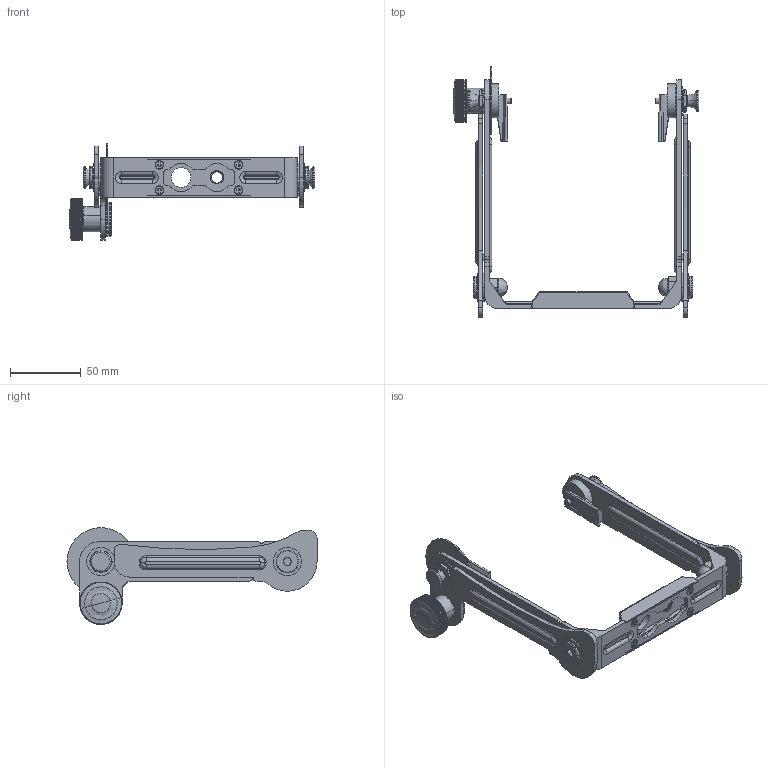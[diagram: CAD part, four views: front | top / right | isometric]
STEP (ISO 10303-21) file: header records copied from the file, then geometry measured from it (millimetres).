
FILE_DESCRIPTION (( 'STEP AP214' ), '1' );
FILE_NAME ('0.Yoke-Phobos assem.STEP', '2025-09-25T07:22:12', ( '' ), ( '' ), 'SwSTEP 2.0', 'SolidWorks 2016', '' );
FILE_SCHEMA (( 'AUTOMOTIVE_DESIGN' ));
Length unit declared in the file: millimetre
Products named in the file (22): 37991-Airline track; 38006-Brake disc; 36820-Screw-KM3X10; 18619-Spring-5X0.6X8; 37994-Bracket Plug-R; 37990-Hand bracket-R; 37249-Friction plate-B; 37988-U Bracket; 37992-Step screw-M8X6+6; 19202-Teflon Bearin; 10080-Flat washer-10X0.6; 10137-Dome nut-M8; 38533-Brake knob; 38002-Knob; 0.Yoke-Phobos assem; 37995-Step screw-M8X5.5+5; 37989-Hand bracket-L; 37251-Step screw-M8X14; 37993-Saddle gasket-10; 37250-Teflon washer-20X10X1.5; 37997-Lock pin; 38001-Bracket Plug-L
Assembly tree (39 placements, depth 2):
  0.Yoke-Phobos assem
    37988-U Bracket
    37250-Teflon washer-20X10X1.5  x2
    10080-Flat washer-10X0.6  x4
    37993-Saddle gasket-10  x4
    37992-Step screw-M8X6+6  x2
    10137-Dome nut-M8  x2
    19202-Teflon Bearin  x2
    37994-Bracket Plug-R
    38006-Brake disc
    37249-Friction plate-B  x2
    37251-Step screw-M8X14
    37995-Step screw-M8X5.5+5  x2
    37997-Lock pin  x2
    18619-Spring-5X0.6X8  x2
    38001-Bracket Plug-L
    37991-Airline track
    36820-Screw-KM3X10  x4
    38533-Brake knob
    38002-Knob  x2
    37990-Hand bracket-R
    37989-Hand bracket-L
Bounding box: 173.95 x 177 x 68.5 mm (x, y, z)
Volume: 101336.5 mm3; surface area: 83668.5 mm2
Topology: 39 solids, 39 shells, 1718 faces, 4388 edges, 2812 vertices
Faces by surface type: cylinder 824, plane 386, bspline 269, torus 123, cone 110, sphere 6
Entity records: 60725 total; most frequent: CARTESIAN_POINT 29813, ORIENTED_EDGE 6682, DIRECTION 5531, EDGE_CURVE 3341, AXIS2_PLACEMENT_3D 2197, VERTEX_POINT 2141, EDGE_LOOP 1398, FACE_OUTER_BOUND 1291
